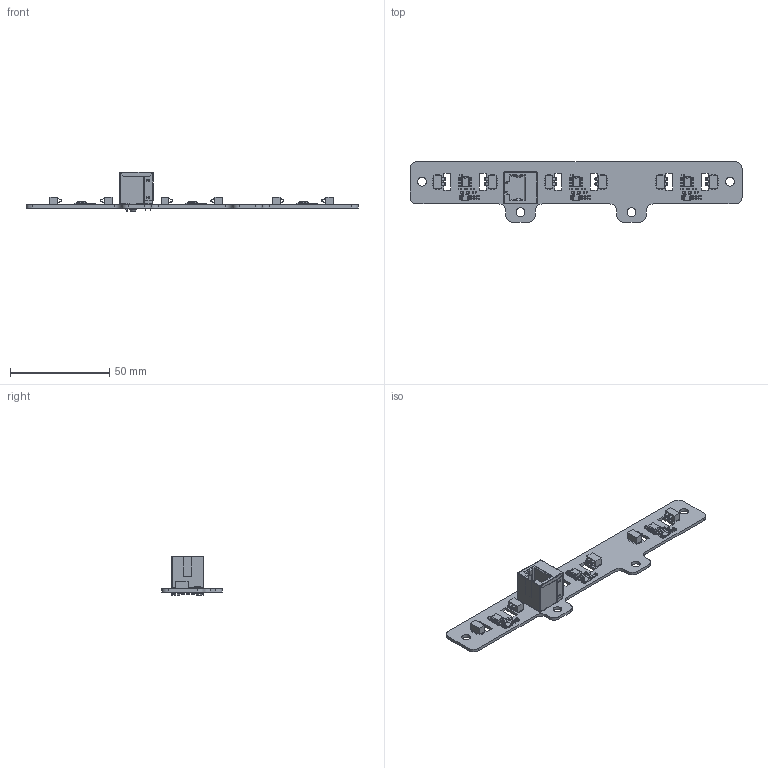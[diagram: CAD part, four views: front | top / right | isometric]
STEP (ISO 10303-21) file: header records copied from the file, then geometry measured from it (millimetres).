
FILE_DESCRIPTION(/* description */ ('PCB Design'),/* implementation_level */ '2;1');
FILE_NAME(/* name */ 'Hall Effect Current Sensor PCB V0-4b',/* time_stamp */ '2020-04-21T11:43:28-05:00',/* author */ (''),/* organization */ (''),/* preprocessor_version */ 'ST-DEVELOPER v16',/* originating_system */ 'allegro_17.2S053',/* authorisation */ '');
FILE_SCHEMA (('AUTOMOTIVE_DESIGN { 1 0 10303 214 3 1 1 }'));
Products named in the file (29): HALL EFFECT CURRENT SENSOR PCB V0-4; BOARD_OUTLINE; COMPONENTS; AVX_9155_MOBO_2PIN; RJ45_VERT_SHIELD_CON; CAPC1608X90N; RESC1608X55N; CAPC1608X87N; MSOP8_0_65X4_40P_H1_10; SOIC_8; AVX-00-9155-002-541-006_00-9155-002-541-00X; A-2014-2S-4-N-R; ASSEMBLY; C0603; COMPOUND002; COMPOUND001; COMPOUND; COMPOUND003; COMPOUND004; COMPOUND005; COMPOUND006; COMPOUND007; COMPOUND008; DAE50693-0146-4410-B22F-DFDB0C525C7A
Assembly tree (65 placements, depth 5):
  HALL EFFECT CURRENT SENSOR PCB V0-4
    BOARD_OUTLINE
    COMPONENTS
      AVX_9155_MOBO_2PIN  x6
        AVX-00-9155-002-541-006_00-9155-002-541-00X
      RJ45_VERT_SHIELD_CON
        A-2014-2S-4-N-R
      CAPC1608X90N  x6
        ASSEMBLY
          C0603
      RESC1608X55N  x15
        ASSEMBLY
          COMPOUND002
          COMPOUND001
          COMPOUND
      CAPC1608X87N  x9
        ASSEMBLY
          C0603
      MSOP8_0_65X4_40P_H1_10  x3
        ASSEMBLY
          COMPOUND
          COMPOUND001
          COMPOUND002
          COMPOUND003
          COMPOUND004
          COMPOUND005
          COMPOUND006
          COMPOUND007
          COMPOUND008
      SOIC_8  x3
        DAE50693-0146-4410-B22F-DFDB0C525C7A
Bounding box: 167.5 x 30.4 x 19.95 mm (x, y, z)
Volume: 4129.7 mm3; surface area: 14408.8 mm2
Topology: 112 solids, 113 shells, 3682 faces, 9522 edges, 5952 vertices
Faces by surface type: plane 2118, cylinder 1230, sphere 154, bspline 124, revolution 48, cone 8
Full cylindrical faces by diameter (mm): 0.5 x3
Entity records: 58698 total; most frequent: CARTESIAN_POINT 20646, DIRECTION 6161, ORIENTED_EDGE 4994, VECTOR 3199, LINE 3199, EDGE_CURVE 2510, PCURVE 2074, DEFINITIONAL_REPRESENTATION 2074
